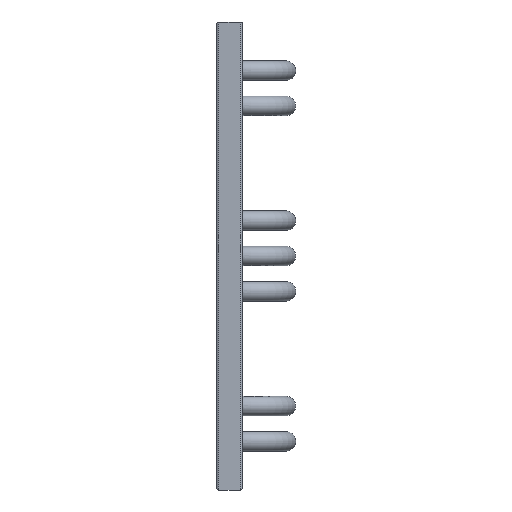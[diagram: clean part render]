
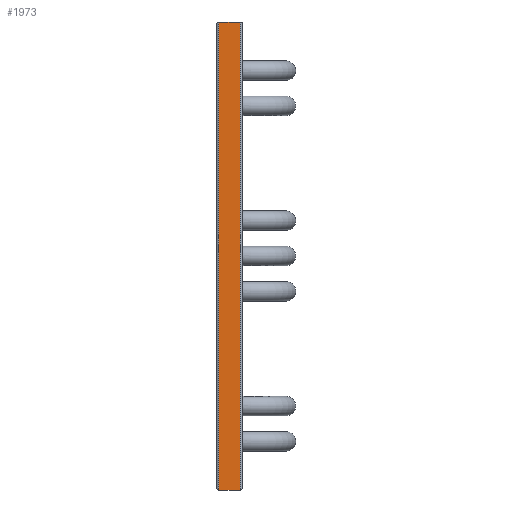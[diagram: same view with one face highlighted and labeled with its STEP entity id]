
A CAD part, left-side view. The second image highlights one B-rep face of the part: STEP entity #1973.
In plain terms, the highlighted planar face has unit normal (-1, 0, 0).
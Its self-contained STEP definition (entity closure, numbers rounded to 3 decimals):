
#215=CARTESIAN_POINT('',(-250.,12.,0.0));
#216=VERTEX_POINT('',#215);
#231=CARTESIAN_POINT('',(-250.,-12.,0.0));
#232=VERTEX_POINT('',#231);
#239=CARTESIAN_POINT('',(-250.,-12.,0.0));
#240=DIRECTION('',(0.0,1.0,0.0));
#241=VECTOR('',#240,24.);
#242=LINE('',#239,#241);
#243=EDGE_CURVE('',#232,#216,#242,.T.);
#1913=CARTESIAN_POINT('',(-250.,12.,530.0));
#1914=VERTEX_POINT('',#1913);
#1938=CARTESIAN_POINT('',(-250.,12.,0.0));
#1939=DIRECTION('',(0.0,0.0,1.0));
#1940=VECTOR('',#1939,530.0);
#1941=LINE('',#1938,#1940);
#1942=EDGE_CURVE('',#216,#1914,#1941,.T.);
#1950=CARTESIAN_POINT('',(-250.,-15.,0.0));
#1951=DIRECTION('',(-1.0,0.0,0.0));
#1952=DIRECTION('',(0.0,0.0,1.0));
#1953=AXIS2_PLACEMENT_3D('',#1950,#1951,#1952);
#1954=PLANE('',#1953);
#1955=ORIENTED_EDGE('',*,*,#1942,.F.);
#1956=ORIENTED_EDGE('',*,*,#243,.F.);
#1957=CARTESIAN_POINT('',(-250.,-12.,530.0));
#1958=VERTEX_POINT('',#1957);
#1959=CARTESIAN_POINT('',(-250.,-12.,530.0));
#1960=DIRECTION('',(0.0,0.0,-1.0));
#1961=VECTOR('',#1960,530.0);
#1962=LINE('',#1959,#1961);
#1963=EDGE_CURVE('',#1958,#232,#1962,.T.);
#1964=ORIENTED_EDGE('',*,*,#1963,.F.);
#1965=CARTESIAN_POINT('',(-250.,-12.,530.0));
#1966=DIRECTION('',(0.0,1.0,0.0));
#1967=VECTOR('',#1966,24.);
#1968=LINE('',#1965,#1967);
#1969=EDGE_CURVE('',#1958,#1914,#1968,.T.);
#1970=ORIENTED_EDGE('',*,*,#1969,.T.);
#1971=EDGE_LOOP('',(#1955,#1956,#1964,#1970));
#1972=FACE_OUTER_BOUND('',#1971,.T.);
#1973=ADVANCED_FACE('',(#1972),#1954,.T.);
